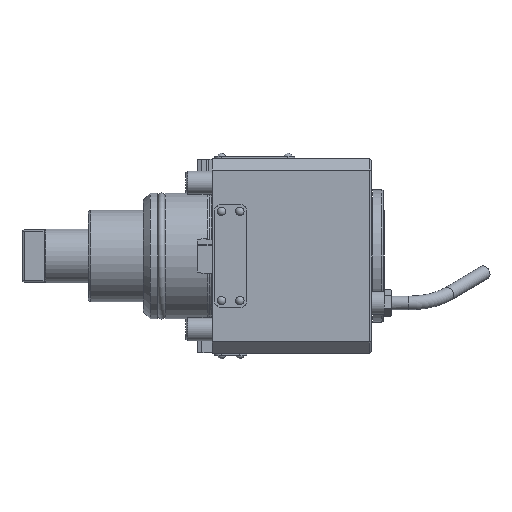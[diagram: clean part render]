
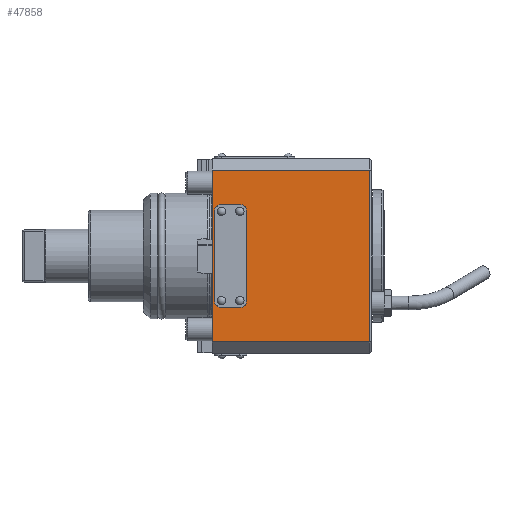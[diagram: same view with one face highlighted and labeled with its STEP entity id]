
A CAD part, front view. The second image highlights one B-rep face of the part: STEP entity #47858.
In plain terms, the highlighted planar face has unit normal (0, -1, 0).
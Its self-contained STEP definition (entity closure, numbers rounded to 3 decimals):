
#19868=VECTOR('',#31904,1.);
#19879=VECTOR('',#31935,1.);
#19882=VECTOR('',#31940,1.);
#19883=VECTOR('',#31941,1.);
#19884=VECTOR('',#31944,1.);
#19885=VECTOR('',#31947,1.);
#19886=VECTOR('',#31950,1.);
#19887=VECTOR('',#31953,1.);
#20901=LINE('',#35552,#19868);
#20912=LINE('',#35587,#19879);
#20915=LINE('',#35592,#19882);
#20916=LINE('',#35593,#19883);
#20917=LINE('',#35598,#19884);
#20918=LINE('',#35602,#19885);
#20919=LINE('',#35606,#19886);
#20920=LINE('',#35609,#19887);
#22154=ORIENTED_EDGE('',*,*,#27835,.F.);
#22155=ORIENTED_EDGE('',*,*,#27838,.F.);
#22156=ORIENTED_EDGE('',*,*,#27818,.T.);
#22157=ORIENTED_EDGE('',*,*,#27839,.T.);
#22158=ORIENTED_EDGE('',*,*,#27840,.F.);
#22159=ORIENTED_EDGE('',*,*,#27841,.F.);
#22160=ORIENTED_EDGE('',*,*,#27842,.F.);
#22161=ORIENTED_EDGE('',*,*,#27843,.F.);
#22162=ORIENTED_EDGE('',*,*,#27844,.F.);
#22163=ORIENTED_EDGE('',*,*,#27845,.F.);
#22164=ORIENTED_EDGE('',*,*,#27846,.F.);
#22165=ORIENTED_EDGE('',*,*,#27847,.F.);
#25965=CIRCLE('',#46038,3.);
#25966=CIRCLE('',#46039,3.);
#25967=CIRCLE('',#46040,3.);
#25968=CIRCLE('',#46041,3.);
#26499=VERTEX_POINT('',#35548);
#26500=VERTEX_POINT('',#35550);
#26512=VERTEX_POINT('',#35580);
#26514=VERTEX_POINT('',#35586);
#26516=VERTEX_POINT('',#35594);
#26517=VERTEX_POINT('',#35595);
#26518=VERTEX_POINT('',#35597);
#26519=VERTEX_POINT('',#35599);
#26520=VERTEX_POINT('',#35601);
#26521=VERTEX_POINT('',#35603);
#26522=VERTEX_POINT('',#35605);
#26523=VERTEX_POINT('',#35607);
#27818=EDGE_CURVE('',#26499,#26500,#20901,.T.);
#27835=EDGE_CURVE('',#26512,#26514,#20912,.T.);
#27838=EDGE_CURVE('',#26499,#26512,#20915,.T.);
#27839=EDGE_CURVE('',#26500,#26514,#20916,.T.);
#27840=EDGE_CURVE('',#26516,#26517,#25965,.T.);
#27841=EDGE_CURVE('',#26518,#26516,#20917,.T.);
#27842=EDGE_CURVE('',#26519,#26518,#25966,.T.);
#27843=EDGE_CURVE('',#26520,#26519,#20918,.T.);
#27844=EDGE_CURVE('',#26521,#26520,#25967,.T.);
#27845=EDGE_CURVE('',#26522,#26521,#20919,.T.);
#27846=EDGE_CURVE('',#26523,#26522,#25968,.T.);
#27847=EDGE_CURVE('',#26517,#26523,#20920,.T.);
#29744=EDGE_LOOP('',(#22154,#22155,#22156,#22157));
#29745=EDGE_LOOP('',(#22158,#22159,#22160,#22161,#22162,#22163,#22164,#22165));
#30805=FACE_BOUND('',#29744,.T.);
#30806=FACE_BOUND('',#29745,.T.);
#31904=DIRECTION('',(-68.5,0.,0.));
#31935=DIRECTION('',(-68.5,0.,0.));
#31938=DIRECTION('',(0.,-1.,0.));
#31939=DIRECTION('',(-1.,0.,0.));
#31940=DIRECTION('',(0.,0.,-75.));
#31941=DIRECTION('',(0.,0.,-75.));
#31942=DIRECTION('',(0.,-1.,0.));
#31943=DIRECTION('',(-3.,0.,0.));
#31944=DIRECTION('',(0.,0.,-39.));
#31945=DIRECTION('',(0.,-1.,0.));
#31946=DIRECTION('',(0.,0.,3.));
#31947=DIRECTION('',(-8.,0.,0.));
#31948=DIRECTION('',(0.,-1.,0.));
#31949=DIRECTION('',(3.,0.,0.));
#31950=DIRECTION('',(0.,0.,39.));
#31951=DIRECTION('',(0.,-1.,0.));
#31952=DIRECTION('',(0.,0.,-3.));
#31953=DIRECTION('',(8.,0.,0.));
#35548=CARTESIAN_POINT('',(68.5,-47.5,37.5));
#35550=CARTESIAN_POINT('',(0.,-47.5,37.5));
#35552=CARTESIAN_POINT('',(68.5,-47.5,37.5));
#35580=CARTESIAN_POINT('',(68.5,-47.5,-37.5));
#35586=CARTESIAN_POINT('',(0.,-47.5,-37.5));
#35587=CARTESIAN_POINT('',(68.5,-47.5,-37.5));
#35591=CARTESIAN_POINT('',(68.5,-47.5,-37.5));
#35592=CARTESIAN_POINT('',(68.5,-47.5,37.5));
#35593=CARTESIAN_POINT('',(0.,-47.5,37.5));
#35594=CARTESIAN_POINT('',(1.,-47.5,-19.5));
#35595=CARTESIAN_POINT('',(4.,-47.5,-22.5));
#35596=CARTESIAN_POINT('',(4.,-47.5,-19.5));
#35597=CARTESIAN_POINT('',(1.,-47.5,19.5));
#35598=CARTESIAN_POINT('',(1.,-47.5,19.5));
#35599=CARTESIAN_POINT('',(4.,-47.5,22.5));
#35600=CARTESIAN_POINT('',(4.,-47.5,19.5));
#35601=CARTESIAN_POINT('',(12.,-47.5,22.5));
#35602=CARTESIAN_POINT('',(12.,-47.5,22.5));
#35603=CARTESIAN_POINT('',(15.,-47.5,19.5));
#35604=CARTESIAN_POINT('',(12.,-47.5,19.5));
#35605=CARTESIAN_POINT('',(15.,-47.5,-19.5));
#35606=CARTESIAN_POINT('',(15.,-47.5,-19.5));
#35607=CARTESIAN_POINT('',(12.,-47.5,-22.5));
#35608=CARTESIAN_POINT('',(12.,-47.5,-19.5));
#35609=CARTESIAN_POINT('',(4.,-47.5,-22.5));
#46037=AXIS2_PLACEMENT_3D('',#35591,#31938,#31939);
#46038=AXIS2_PLACEMENT_3D('',#35596,#31942,#31943);
#46039=AXIS2_PLACEMENT_3D('',#35600,#31945,#31946);
#46040=AXIS2_PLACEMENT_3D('',#35604,#31948,#31949);
#46041=AXIS2_PLACEMENT_3D('',#35608,#31951,#31952);
#47323=PLANE('',#46037);
#47858=ADVANCED_FACE('',(#30805,#30806),#47323,.T.);
